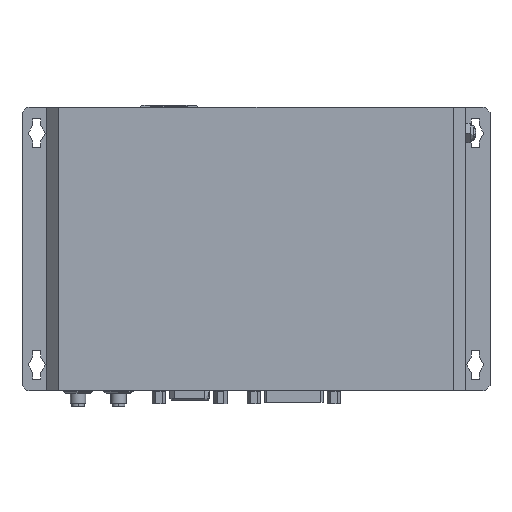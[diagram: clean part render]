
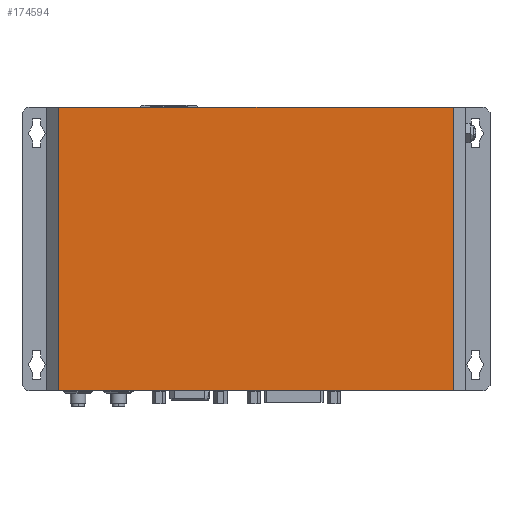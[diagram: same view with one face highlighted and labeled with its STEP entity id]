
A CAD part, top view. The second image highlights one B-rep face of the part: STEP entity #174594.
In plain terms, the highlighted planar face has unit normal (0, 0, 1).
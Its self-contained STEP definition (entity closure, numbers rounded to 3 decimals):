
#1350 = CARTESIAN_POINT ( 'NONE',  ( -80., 115.001, 50. ) ) ;
#9357 = CARTESIAN_POINT ( 'NONE',  ( -80., 76.668, 50. ) ) ;
#13426 = EDGE_CURVE ( 'NONE', #179390, #287362, #58968, .T. ) ;
#28318 = ORIENTED_EDGE ( 'NONE', *, *, #222606, .F. ) ;
#28503 = EDGE_CURVE ( 'NONE', #133069, #76055, #207182, .T. ) ;
#30772 = CARTESIAN_POINT ( 'NONE',  ( 80., 115.001, 50. ) ) ;
#44274 = DIRECTION ( 'NONE',  ( 0., 0., 1. ) ) ;
#49354 = CARTESIAN_POINT ( 'NONE',  ( 26.667, 115.001, 50. ) ) ;
#50463 = CARTESIAN_POINT ( 'NONE',  ( -26.667, 115.001, 50. ) ) ;
#56471 = CARTESIAN_POINT ( 'NONE',  ( 80., 0.001, 50. ) ) ;
#58968 = B_SPLINE_CURVE_WITH_KNOTS ( 'NONE', 3,
 ( #30772, #237238, #209400, #56471 ),
 .UNSPECIFIED., .F., .F.,
 ( 4, 4 ),
 ( 0., 1. ),
 .UNSPECIFIED. ) ;
#76055 = VERTEX_POINT ( 'NONE', #324714 ) ;
#93984 = AXIS2_PLACEMENT_3D ( 'NONE', #223899, #44274, #123459 ) ;
#96294 = B_SPLINE_CURVE_WITH_KNOTS ( 'NONE', 3,
 ( #216013, #314201, #134565, #239415 ),
 .UNSPECIFIED., .F., .F.,
 ( 4, 4 ),
 ( 0., 1. ),
 .UNSPECIFIED. ) ;
#122756 = ORIENTED_EDGE ( 'NONE', *, *, #308616, .T. ) ;
#123459 = DIRECTION ( 'NONE',  ( 1., 0., 0. ) ) ;
#133069 = VERTEX_POINT ( 'NONE', #247496 ) ;
#134565 = CARTESIAN_POINT ( 'NONE',  ( 26.667, 0.001, 50. ) ) ;
#139444 = ORIENTED_EDGE ( 'NONE', *, *, #28503, .F. ) ;
#157765 = CARTESIAN_POINT ( 'NONE',  ( -80., 38.334, 50. ) ) ;
#169879 = FACE_OUTER_BOUND ( 'NONE', #279894, .T. ) ;
#174594 = ADVANCED_FACE ( 'NONE', ( #169879 ), #275324, .T. ) ;
#176525 = CARTESIAN_POINT ( 'NONE',  ( 80., 115.001, 50. ) ) ;
#179390 = VERTEX_POINT ( 'NONE', #297594 ) ;
#182325 = B_SPLINE_CURVE_WITH_KNOTS ( 'NONE', 3,
 ( #1350, #50463, #49354, #176525 ),
 .UNSPECIFIED., .F., .F.,
 ( 4, 4 ),
 ( 0., 1. ),
 .UNSPECIFIED. ) ;
#185033 = CARTESIAN_POINT ( 'NONE',  ( 80., 0.001, 50. ) ) ;
#185646 = CARTESIAN_POINT ( 'NONE',  ( -80., 0.001, 50. ) ) ;
#207182 = B_SPLINE_CURVE_WITH_KNOTS ( 'NONE', 3,
 ( #185646, #157765, #9357, #260481 ),
 .UNSPECIFIED., .F., .F.,
 ( 4, 4 ),
 ( 0., 1. ),
 .UNSPECIFIED. ) ;
#209400 = CARTESIAN_POINT ( 'NONE',  ( 80., 38.334, 50. ) ) ;
#216013 = CARTESIAN_POINT ( 'NONE',  ( -80., 0.001, 50. ) ) ;
#222606 = EDGE_CURVE ( 'NONE', #76055, #179390, #182325, .T. ) ;
#223899 = CARTESIAN_POINT ( 'NONE',  ( -80., 115.001, 50. ) ) ;
#237238 = CARTESIAN_POINT ( 'NONE',  ( 80., 76.668, 50. ) ) ;
#239415 = CARTESIAN_POINT ( 'NONE',  ( 80., 0.001, 50. ) ) ;
#247496 = CARTESIAN_POINT ( 'NONE',  ( -80., 0.001, 50. ) ) ;
#260481 = CARTESIAN_POINT ( 'NONE',  ( -80., 115.001, 50. ) ) ;
#275324 = PLANE ( 'NONE',  #93984 ) ;
#279894 = EDGE_LOOP ( 'NONE', ( #139444, #122756, #314285, #28318 ) ) ;
#287362 = VERTEX_POINT ( 'NONE', #185033 ) ;
#297594 = CARTESIAN_POINT ( 'NONE',  ( 80., 115.001, 50. ) ) ;
#308616 = EDGE_CURVE ( 'NONE', #133069, #287362, #96294, .T. ) ;
#314201 = CARTESIAN_POINT ( 'NONE',  ( -26.667, 0.001, 50. ) ) ;
#314285 = ORIENTED_EDGE ( 'NONE', *, *, #13426, .F. ) ;
#324714 = CARTESIAN_POINT ( 'NONE',  ( -80., 115.001, 50. ) ) ;
